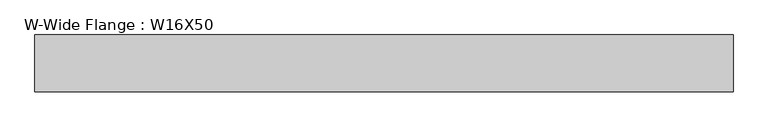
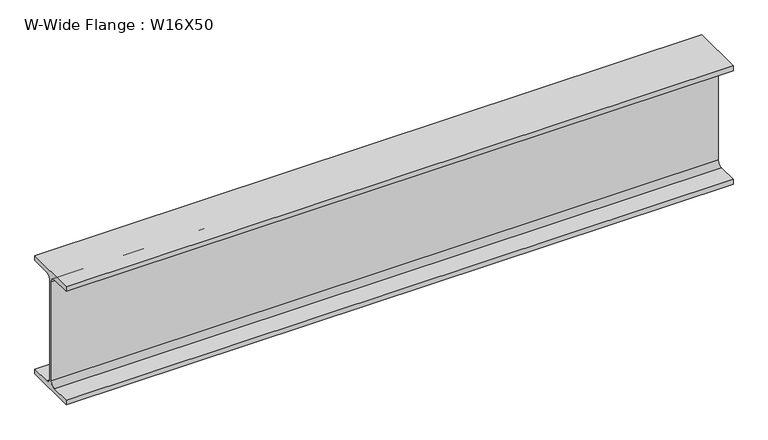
"""IFC4 building model written with IfcOpenShell, lengths in millimetres: beam geometry, W-Wide Flange : W16X50."""

from ifc_helpers import new_model, si_unit, point, frame, frame_2d, origin, place, context, project, spatial, polyline, circle_curve, trimmed, segment, composite_curve, outline, extrude, source, transform, mapped, element, save


def w_wide_flange_w16x50_2f8f61bc(model_context):
    return source(origin(), model_context, "Body", "SweptSolid", [
        extrude(outline(composite_curve([segment(polyline([(89.789, -191.008), (89.789, -207.01), (-89.789, -207.01), (-89.789, -191.008), (-22.1615, -191.008)]), True, "CONTINUOUS"), segment(trimmed(circle_curve(frame_2d((-22.1615, -173.6725)), 17.3355), [point((-22.1615, -191.008))], [point((-4.826, -173.6725))], True, "CARTESIAN"), True, "CONTINUOUS"), segment(polyline([(-4.826, -173.6725), (-4.826, 173.6725)]), True, "CONTINUOUS"), segment(trimmed(circle_curve(frame_2d((-22.1615, 173.6725)), 17.3355), [point((-4.826, 173.6725))], [point((-22.1615, 191.008))], True, "CARTESIAN"), True, "CONTINUOUS"), segment(polyline([(-22.1615, 191.008), (-89.789, 191.008), (-89.789, 207.01), (89.789, 207.01), (89.789, 191.008), (22.1615, 191.008)]), True, "CONTINUOUS"), segment(trimmed(circle_curve(frame_2d((22.1615, 173.6725)), 17.3355), [point((22.1615, 191.008))], [point((4.826, 173.6725))], True, "CARTESIAN"), True, "CONTINUOUS"), segment(polyline([(4.826, 173.6725), (4.826, -173.6725)]), True, "CONTINUOUS"), segment(trimmed(circle_curve(frame_2d((22.1615, -173.6725)), 17.3355), [point((4.826, -173.6725))], [point((22.1615, -191.008))], True, "CARTESIAN"), True, "CONTINUOUS"), segment(polyline([(22.1615, -191.008), (89.789, -191.008)]), True, "CONTINUOUS")], self_intersect=False)), frame((-1094.5030758, 0.0, 0.0), z_axis=(1.0, 0.0, 0.0), x_axis=(0.0, 1.0, 0.0)), (0.0, 0.0, 1.0), 2211.8661516),
    ])


if __name__ == "__main__":
    model = new_model("IFC4")
    model_context = context("Model", 3, world=origin())
    ifc_project = project(units=[si_unit("LENGTHUNIT", "METRE", prefix="MILLI")], contexts=[model_context])
    site = spatial("IfcSite", under=ifc_project)
    building = spatial("IfcBuilding", under=site)
    placement = place(None, origin())
    w_wide_flange_w16x50_shape = w_wide_flange_w16x50_2f8f61bc(model_context)
    element("IfcBeam", 1, ObjectType="W-Wide Flange : W16X50", at=placement, inside=building, context=model_context, shape_type="MappedRepresentation", body=[
        mapped(w_wide_flange_w16x50_shape, transform((0.0, 0.0, 0.0), x_axis=(1.0, 0.0, 0.0), y_axis=(0.0, 1.0, 0.0), z_axis=(0.0, 0.0, 1.0))),
    ])
    save(model, "model.ifc")
